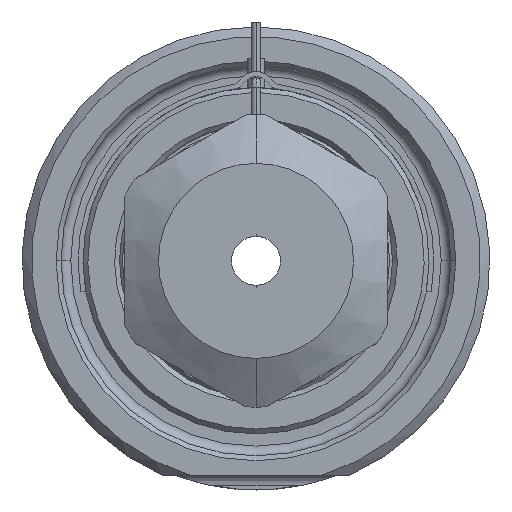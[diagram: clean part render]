
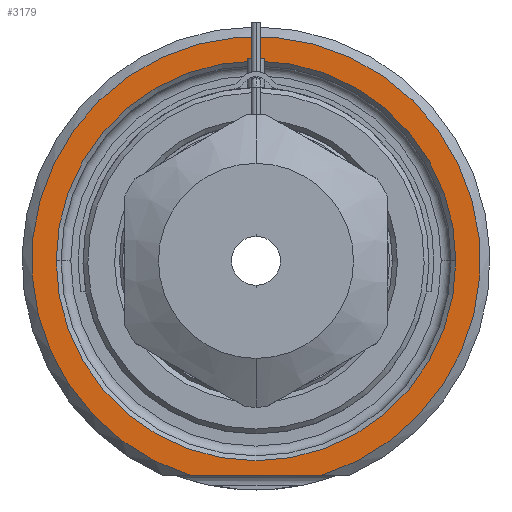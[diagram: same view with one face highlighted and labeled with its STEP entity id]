
A CAD part, front view. The second image highlights one B-rep face of the part: STEP entity #3179.
In plain terms, the highlighted planar face has unit normal (0, -1, 0).
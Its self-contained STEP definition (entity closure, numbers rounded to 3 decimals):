
#1=DIRECTION('',(1.,0.,0.));
#2=VECTOR('',#1,13.416);
#3=CARTESIAN_POINT('',(-6.708,0.,-22.));
#4=LINE('',#3,#2);
#5=CARTESIAN_POINT('',(0.,0.,0.));
#6=DIRECTION('',(0.,1.,0.));
#7=DIRECTION('',(-1.,0.,0.));
#8=AXIS2_PLACEMENT_3D('',#5,#6,#7);
#10=CARTESIAN_POINT('',(0.,0.,0.));
#11=DIRECTION('',(0.,1.,0.));
#12=DIRECTION('',(1.,0.,0.));
#13=AXIS2_PLACEMENT_3D('',#10,#11,#12);
#121=CARTESIAN_POINT('',(0.,0.,0.));
#122=DIRECTION('',(0.,-1.,0.));
#123=DIRECTION('',(0.292,0.,-0.957));
#124=AXIS2_PLACEMENT_3D('',#121,#122,#123);
#2633=CARTESIAN_POINT('',(-20.5,0.,0.));
#2634=CARTESIAN_POINT('',(20.5,0.,0.));
#2635=VERTEX_POINT('',#2633);
#2636=VERTEX_POINT('',#2634);
#2673=CARTESIAN_POINT('',(-6.708,0.,-22.));
#2674=CARTESIAN_POINT('',(6.708,0.,-22.));
#2675=VERTEX_POINT('',#2673);
#2676=VERTEX_POINT('',#2674);
#3162=CARTESIAN_POINT('',(0.,0.,0.));
#3163=DIRECTION('',(0.,-1.,0.));
#3164=DIRECTION('',(1.,0.,0.));
#3165=AXIS2_PLACEMENT_3D('',#3162,#3163,#3164);
#3166=PLANE('',#3165);
#3168=ORIENTED_EDGE('',*,*,#3167,.F.);
#3170=ORIENTED_EDGE('',*,*,#3169,.F.);
#3171=EDGE_LOOP('',(#3168,#3170));
#3172=FACE_OUTER_BOUND('',#3171,.F.);
#3174=ORIENTED_EDGE('',*,*,#3173,.F.);
#3176=ORIENTED_EDGE('',*,*,#3175,.F.);
#3177=EDGE_LOOP('',(#3174,#3176));
#3178=FACE_BOUND('',#3177,.F.);
#3179=ADVANCED_FACE('',(#3172,#3178),#3166,.T.);
#9=CIRCLE('',#8,20.5);
#14=CIRCLE('',#13,20.5);
#125=CIRCLE('',#124,23.);
#3167=EDGE_CURVE('',#2675,#2676,#4,.T.);
#3169=EDGE_CURVE('',#2676,#2675,#125,.T.);
#3173=EDGE_CURVE('',#2635,#2636,#9,.T.);
#3175=EDGE_CURVE('',#2636,#2635,#14,.T.);
